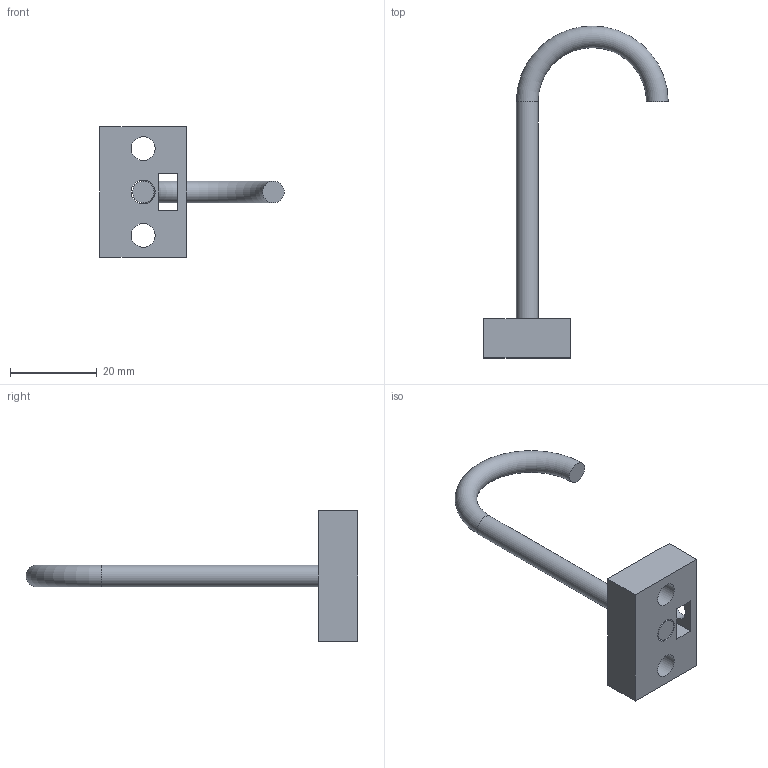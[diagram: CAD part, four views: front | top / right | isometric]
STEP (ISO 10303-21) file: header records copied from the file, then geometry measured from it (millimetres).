
FILE_DESCRIPTION(/* description */ (''),/* implementation_level */ '2;1');
FILE_NAME(/* name */ 'hand_end_2 v6.step',/* time_stamp */ '2026-04-10T14:29:44+02:00',/* author */ (''),/* organization */ (''),/* preprocessor_version */ 'ST-DEVELOPER v20.1',/* originating_system */ 'Autodesk Translation Framework v14.24.0.0',/* authorisation */ '');
FILE_SCHEMA (('AUTOMOTIVE_DESIGN { 1 0 10303 214 3 1 1 }'));
Length unit declared in the file: millimetre
Products named in the file (1): (Niezapisany)
Bounding box: 42.5 x 76.5 x 30 mm (x, y, z)
Volume: 6422.8 mm3; surface area: 4251 mm2
Topology: 2 solids, 2 shells, 19 faces, 47 edges, 32 vertices
Faces by surface type: plane 12, cylinder 6, torus 1
Full cylindrical faces by diameter (mm): 5 x1, 5.5 x5
Entity records: 630 total; most frequent: DIRECTION 104, CARTESIAN_POINT 99, ORIENTED_EDGE 94, EDGE_CURVE 47, AXIS2_PLACEMENT_3D 37, VERTEX_POINT 32, EDGE_LOOP 31, LINE 30
